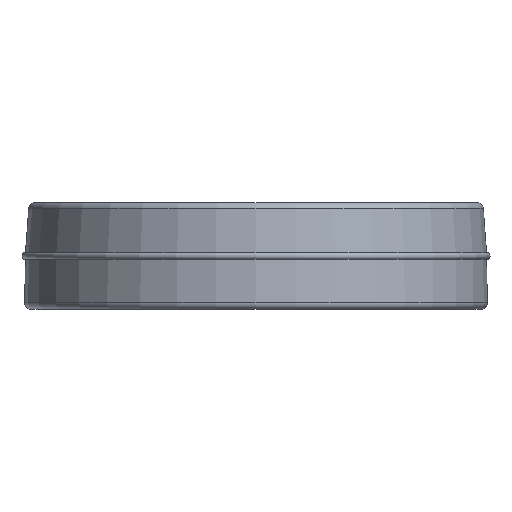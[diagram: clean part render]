
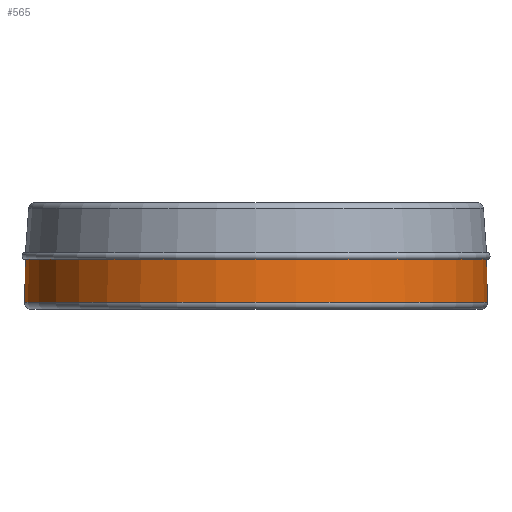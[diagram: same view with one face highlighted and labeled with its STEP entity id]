
A CAD part, front view. The second image highlights one B-rep face of the part: STEP entity #565.
In plain terms, the highlighted conical face has half-angle 1.142 degrees and reference radius 66.496 mm.
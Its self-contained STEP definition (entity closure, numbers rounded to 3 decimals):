
#61 = CARTESIAN_POINT ( 'NONE',  ( -66.25, 0., 41.372 ) ) ;
#85 = ORIENTED_EDGE ( 'NONE', *, *, #1000, .F. ) ;
#140 = CARTESIAN_POINT ( 'NONE',  ( 66.496, 0., 29.037 ) ) ;
#156 = AXIS2_PLACEMENT_3D ( 'NONE', #196, #313, #602 ) ;
#178 = VERTEX_POINT ( 'NONE', #953 ) ;
#186 = DIRECTION ( 'NONE',  ( 0.02, 0., -1. ) ) ;
#195 = LINE ( 'NONE', #1290, #1281 ) ;
#196 = CARTESIAN_POINT ( 'NONE',  ( 0., 0., 29.037 ) ) ;
#234 = AXIS2_PLACEMENT_3D ( 'NONE', #476, #1264, #382 ) ;
#268 = CARTESIAN_POINT ( 'NONE',  ( 0., 0., 41.372 ) ) ;
#273 = EDGE_LOOP ( 'NONE', ( #1123, #1060, #795, #85 ) ) ;
#313 = DIRECTION ( 'NONE',  ( 0., 0., -1. ) ) ;
#346 = VECTOR ( 'NONE', #1170, 1000. ) ;
#382 = DIRECTION ( 'NONE',  ( -1., 0., 0. ) ) ;
#407 = FACE_OUTER_BOUND ( 'NONE', #273, .T. ) ;
#427 = CIRCLE ( 'NONE', #1147, 66.25 ) ;
#476 = CARTESIAN_POINT ( 'NONE',  ( 0., 0., 29.037 ) ) ;
#503 = EDGE_CURVE ( 'NONE', #1019, #838, #1052, .T. ) ;
#565 = ADVANCED_FACE ( 'NONE', ( #407 ), #579, .T. ) ;
#572 = CIRCLE ( 'NONE', #234, 66.496 ) ;
#579 = CONICAL_SURFACE ( 'NONE', #156, 66.496, 0.02 ) ;
#587 = DIRECTION ( 'NONE',  ( -1., 0., 0. ) ) ;
#602 = DIRECTION ( 'NONE',  ( -1., 0., 0. ) ) ;
#736 = EDGE_CURVE ( 'NONE', #178, #1019, #427, .T. ) ;
#795 = ORIENTED_EDGE ( 'NONE', *, *, #503, .T. ) ;
#838 = VERTEX_POINT ( 'NONE', #1009 ) ;
#852 = EDGE_CURVE ( 'NONE', #178, #1132, #195, .T. ) ;
#953 = CARTESIAN_POINT ( 'NONE',  ( 66.25, 0., 41.372 ) ) ;
#1000 = EDGE_CURVE ( 'NONE', #1132, #838, #572, .T. ) ;
#1009 = CARTESIAN_POINT ( 'NONE',  ( -66.496, 0., 29.037 ) ) ;
#1019 = VERTEX_POINT ( 'NONE', #61 ) ;
#1052 = LINE ( 'NONE', #1078, #346 ) ;
#1060 = ORIENTED_EDGE ( 'NONE', *, *, #736, .T. ) ;
#1078 = CARTESIAN_POINT ( 'NONE',  ( -66.496, 0., 29.037 ) ) ;
#1123 = ORIENTED_EDGE ( 'NONE', *, *, #852, .F. ) ;
#1132 = VERTEX_POINT ( 'NONE', #140 ) ;
#1147 = AXIS2_PLACEMENT_3D ( 'NONE', #268, #1169, #587 ) ;
#1169 = DIRECTION ( 'NONE',  ( 0., 0., -1. ) ) ;
#1170 = DIRECTION ( 'NONE',  ( -0.02, 0., -1. ) ) ;
#1264 = DIRECTION ( 'NONE',  ( 0., 0., -1. ) ) ;
#1281 = VECTOR ( 'NONE', #186, 1000. ) ;
#1290 = CARTESIAN_POINT ( 'NONE',  ( 66.496, 0., 29.037 ) ) ;
